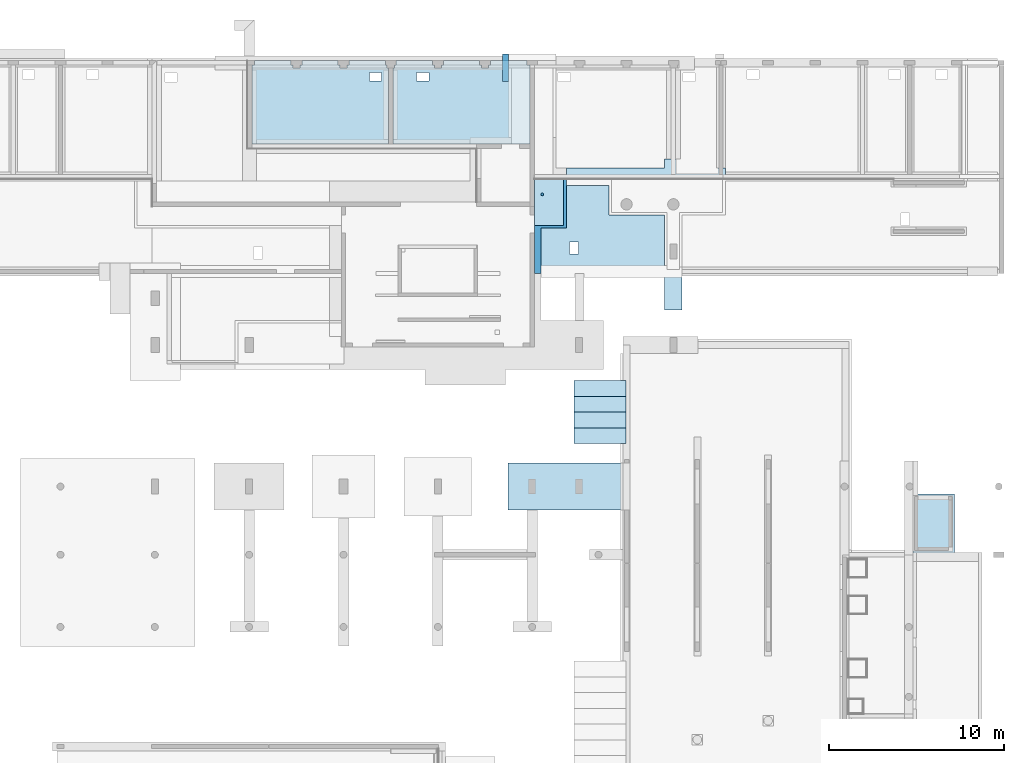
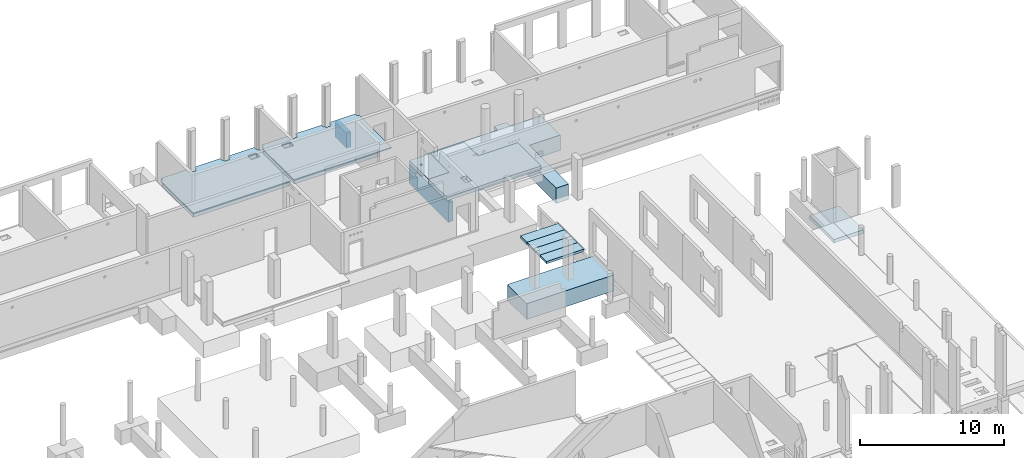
# One storey, part 32 of 60: 15 slabs, 45 openings.
"""IFC2X3 building model written with IfcOpenShell, lengths in millimetres."""

from ifc_helpers import new_model, entity, si_unit, converted_unit, derived_unit, direction, frame, frame_2d, origin, origin_2d_with_axis, place, context, subcontext, project, spatial, polyline, rectangle, circle, outline, extrude, boolean, material, layer, layer_set, layer_usage, element, save


model = new_model("IFC2X3")

# Units and contexts
model_context = context("Model", 3, precision=0.01, world=origin(), true_north=direction((6.12303176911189e-17, 1.0)))
body_context = subcontext(model_context, "Body", "Model", "MODEL_VIEW")
ifc_project = project(units=[si_unit("LENGTHUNIT", "METRE", prefix="MILLI"), si_unit("AREAUNIT", "SQUARE_METRE"), si_unit("VOLUMEUNIT", "CUBIC_METRE"), converted_unit("PLANEANGLEUNIT", "DEGREE", entity("IfcRatioMeasure", 0.0174532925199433), si_unit("PLANEANGLEUNIT", "RADIAN"), dimensions=[0, 0, 0, 0, 0, 0, 0]), si_unit("MASSUNIT", "GRAM", prefix="KILO"), derived_unit("MASSDENSITYUNIT", [(si_unit("MASSUNIT", "GRAM", prefix="KILO"), 1), (si_unit("LENGTHUNIT", "METRE"), -3)]), si_unit("TIMEUNIT", "SECOND"), si_unit("FREQUENCYUNIT", "HERTZ"), si_unit("THERMODYNAMICTEMPERATUREUNIT", "DEGREE_CELSIUS"), derived_unit("THERMALTRANSMITTANCEUNIT", [(si_unit("MASSUNIT", "GRAM", prefix="KILO"), 1), (si_unit("THERMODYNAMICTEMPERATUREUNIT", "KELVIN"), -1), (si_unit("TIMEUNIT", "SECOND"), -3)]), derived_unit("VOLUMETRICFLOWRATEUNIT", [(si_unit("LENGTHUNIT", "METRE"), 3), (si_unit("TIMEUNIT", "SECOND"), -1)]), si_unit("ELECTRICCURRENTUNIT", "AMPERE"), si_unit("ELECTRICVOLTAGEUNIT", "VOLT"), si_unit("POWERUNIT", "WATT"), si_unit("FORCEUNIT", "NEWTON", prefix="KILO"), si_unit("ILLUMINANCEUNIT", "LUX"), si_unit("LUMINOUSFLUXUNIT", "LUMEN"), si_unit("LUMINOUSINTENSITYUNIT", "CANDELA"), derived_unit("USERDEFINED", [(si_unit("MASSUNIT", "GRAM", prefix="KILO"), -1), (si_unit("LENGTHUNIT", "METRE"), -2), (si_unit("TIMEUNIT", "SECOND"), 3), (si_unit("LUMINOUSFLUXUNIT", "LUMEN"), 1)]), derived_unit("LINEARVELOCITYUNIT", [(si_unit("LENGTHUNIT", "METRE"), 1), (si_unit("TIMEUNIT", "SECOND"), -1)]), si_unit("PRESSUREUNIT", "PASCAL"), derived_unit("USERDEFINED", [(si_unit("LENGTHUNIT", "METRE"), -2), (si_unit("MASSUNIT", "GRAM", prefix="KILO"), 1), (si_unit("TIMEUNIT", "SECOND"), -2)])], contexts=[model_context])

# Site, building, storey
site_placement = place(None, origin())
site = spatial("IfcSite", under=ifc_project, at=site_placement, Name="Default", CompositionType="ELEMENT")
building_placement = place(site_placement, origin())
building = spatial("IfcBuilding", under=site, at=building_placement, Name="niet gebruiken", CompositionType="ELEMENT")
storey_placement = place(building_placement, origin())
storey = spatial("IfcBuildingStorey", under=building, at=storey_placement, Name="00 begane grond", CompositionType="ELEMENT", Elevation=0.0)

# Slab, openings
ifc_material_1 = material(Name="NLRS_f2_beton ihwg")
ifc_layer_1 = layer(ifc_material_1, 70.0)
ifc_layer_set_1 = layer_set([ifc_layer_1], Name="Floor:NLRS_23.21_FL_druklaag d=70_gen")
ifc_layer_usage_1 = layer_usage(ifc_layer_set_1, "AXIS3", "POSITIVE", 0.0)
slab_1_placement = place(storey_placement, frame((8180.0, 45156.0, -160.0)))
slab_1 = element("IfcSlab", 1, at=slab_1_placement, inside=storey, material=ifc_layer_usage_1, Name="Floor:NLRS_23.21_FL_druklaag d=70_gen:5", ObjectType="Floor:NLRS_23.21_FL_druklaag d=70_gen", PredefinedType="FLOOR", context=body_context, shape_type="SweptSolid", body=[
    extrude(outline(polyline([(-17722.5000000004, -730.0), (-17722.5000000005, 3800.0), (-17882.500000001, 3800.0), (-17882.500000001, 4050.0), (-19962.4999999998, 4050.0), (-19962.4999999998, 3800.0), (-20067.4999999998, 3800.0), (-20067.4999999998, 3640.0), (-20477.4999999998, 3640.0), (-20477.4999999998, 3800.0), (-20582.4999999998, 3800.0), (-20582.4999999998, 4050.0), (-22662.4999999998, 4050.0), (-22662.4999999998, 3800.0), (-22767.4999999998, 3800.0), (-22767.4999999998, 3640.0), (-23177.4999999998, 3640.0), (-23177.4999999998, 3800.0), (-23282.4999999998, 3800.0), (-23282.4999999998, 4050.0), (-25362.4999999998, 4050.0), (-25362.4999999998, 3800.0), (-25467.4999999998, 3800.0), (-25467.4999999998, 3640.0), (-25547.5000000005, 3640.0), (-25547.5000000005, -730.0), (-17722.5000000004, -730.0)])), frame((55247.4999999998, 4050.0, 70.0), z_axis=(0.0, 0.0, -1.0), x_axis=(-1.0, 0.0, 0.0)), (0.0, 0.0, 1.0), 70.0),
])
placement_1 = place(storey_placement, frame((8180.0, 45156.0, -160.0)))
placement_2 = place(placement_1, origin())
element("IfcOpeningElement", 2, at=placement_2, cuts=slab_1, ObjectType="Opening", context=body_context, shape_type="SweptSolid", body=[
    extrude(rectangle(XDim=700.000000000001, YDim=499.999999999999, at=origin_2d_with_axis()), frame((1750.0, 7302.50000000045, -380.0), z_axis=(0.0, 0.0, 1.0), x_axis=(-1.0, 0.0, 0.0)), (0.0, 0.0, 1.0), 450.0),
])
placement_3 = place(placement_1, origin())
element("IfcOpeningElement", 3, at=placement_3, cuts=slab_1, ObjectType="Opening", context=body_context, shape_type="SweptSolid", body=[
    extrude(rectangle(XDim=700.000000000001, YDim=499.999999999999, at=origin_2d_with_axis()), frame((4450.0, 7302.50000000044, -380.0), z_axis=(0.0, 0.0, 1.0), x_axis=(-1.0, 0.0, 0.0)), (0.0, 0.0, 1.0), 450.0),
])
placement_4 = place(placement_1, origin())
element("IfcOpeningElement", 4, at=placement_4, cuts=slab_1, ObjectType="Opening", context=body_context, shape_type="SweptSolid", body=[
    extrude(rectangle(XDim=700.000000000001, YDim=499.999999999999, at=origin_2d_with_axis()), frame((12550.0, 7302.50000000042, -380.0), z_axis=(0.0, 0.0, 1.0), x_axis=(-1.0, 0.0, 0.0)), (0.0, 0.0, 1.0), 450.0),
])
placement_5 = place(placement_1, origin())
element("IfcOpeningElement", 5, at=placement_5, cuts=slab_1, ObjectType="Opening", context=body_context, shape_type="SweptSolid", body=[
    extrude(rectangle(XDim=700.000000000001, YDim=499.999999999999, at=origin_2d_with_axis()), frame((15250.0, 7302.50000000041, -380.0), z_axis=(0.0, 0.0, 1.0), x_axis=(-1.0, 0.0, 0.0)), (0.0, 0.0, 1.0), 450.0),
])
placement_6 = place(placement_1, origin())
element("IfcOpeningElement", 6, at=placement_6, cuts=slab_1, ObjectType="Opening", context=body_context, shape_type="SweptSolid", body=[
    extrude(rectangle(XDim=700.000000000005, YDim=499.999999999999, at=origin_2d_with_axis()), frame((42250.0, 7175.0, -380.0), z_axis=(0.0, 0.0, 1.0), x_axis=(-1.0, 0.0, 0.0)), (0.0, 0.0, 1.0), 450.0),
])
placement_7 = place(placement_1, origin())
element("IfcOpeningElement", 7, at=placement_7, cuts=slab_1, ObjectType="Opening", context=body_context, shape_type="SweptSolid", body=[
    extrude(rectangle(XDim=700.000000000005, YDim=499.999999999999, at=origin_2d_with_axis()), frame((50350.0, 7102.50000000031, -380.0), z_axis=(0.0, 0.0, 1.0), x_axis=(-1.0, 0.0, 0.0)), (0.0, 0.0, 1.0), 450.0),
])
placement_8 = place(placement_1, origin())
element("IfcOpeningElement", 8, at=placement_8, cuts=slab_1, ObjectType="Opening", context=body_context, shape_type="SweptSolid", body=[
    extrude(rectangle(XDim=699.999999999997, YDim=499.999999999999, at=origin_2d_with_axis()), frame((53050.0, 7102.50000000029, -380.0), z_axis=(0.0, 0.0, 1.0), x_axis=(-1.0, 0.0, 0.0)), (0.0, 0.0, 1.0), 450.0),
])
placement_9 = place(placement_1, origin())
element("IfcOpeningElement", 9, at=placement_9, cuts=slab_1, ObjectType="Opening", context=body_context, shape_type="SweptSolid", body=[
    extrude(rectangle(XDim=699.999999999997, YDim=499.999999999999, at=origin_2d_with_axis()), frame((60190.0, 7302.50000000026, -380.0), z_axis=(0.0, 0.0, 1.0), x_axis=(-1.0, 0.0, 0.0)), (0.0, 0.0, 1.0), 450.0),
])
placement_10 = place(placement_1, origin())
element("IfcOpeningElement", 10, at=placement_10, cuts=slab_1, ObjectType="Opening", context=body_context, shape_type="SweptSolid", body=[
    extrude(rectangle(XDim=700.000000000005, YDim=499.999999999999, at=origin_2d_with_axis()), frame((63850.0, 7302.50000000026, -380.0), z_axis=(0.0, 0.0, 1.0), x_axis=(-1.0, 0.0, 0.0)), (0.0, 0.0, 1.0), 450.0),
])
placement_11 = place(placement_1, origin())
element("IfcOpeningElement", 11, at=placement_11, cuts=slab_1, ObjectType="Opening", context=body_context, shape_type="SweptSolid", body=[
    extrude(rectangle(XDim=699.999999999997, YDim=499.999999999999, at=origin_2d_with_axis()), frame((90850.0, 7155.0, -380.0), z_axis=(0.0, 0.0, 1.0), x_axis=(-1.0, 0.0, 0.0)), (0.0, 0.0, 1.0), 450.0),
])
placement_12 = place(placement_1, origin())
element("IfcOpeningElement", 12, at=placement_12, cuts=slab_1, ObjectType="Opening", context=body_context, shape_type="SweptSolid", body=[
    extrude(rectangle(XDim=699.999999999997, YDim=499.999999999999, at=origin_2d_with_axis()), frame((97990.0, 7155.0, -380.0), z_axis=(0.0, 0.0, 1.0), x_axis=(-1.0, 0.0, 0.0)), (0.0, 0.0, 1.0), 450.0),
])
placement_13 = place(placement_1, origin())
element("IfcOpeningElement", 13, at=placement_13, cuts=slab_1, ObjectType="Opening", context=body_context, shape_type="SweptSolid", body=[
    extrude(rectangle(XDim=699.999999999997, YDim=499.999999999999, at=origin_2d_with_axis()), frame((101650.0, 7302.50000000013, -380.0), z_axis=(0.0, 0.0, 1.0), x_axis=(-1.0, 0.0, 0.0)), (0.0, 0.0, 1.0), 450.0),
])
placement_14 = place(placement_1, origin())
element("IfcOpeningElement", 14, at=placement_14, cuts=slab_1, ObjectType="Opening", context=body_context, shape_type="SweptSolid", body=[
    extrude(rectangle(XDim=699.999999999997, YDim=499.999999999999, at=origin_2d_with_axis()), frame((109750.0, 7302.50000000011, -380.0), z_axis=(0.0, 0.0, 1.0), x_axis=(-1.0, 0.0, 0.0)), (0.0, 0.0, 1.0), 450.0),
])
placement_15 = place(placement_1, origin())
element("IfcOpeningElement", 15, at=placement_15, cuts=slab_1, ObjectType="Opening", context=body_context, shape_type="SweptSolid", body=[
    extrude(rectangle(XDim=699.999999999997, YDim=499.999999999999, at=origin_2d_with_axis()), frame((112450.0, 7302.5000000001, -380.0), z_axis=(0.0, 0.0, 1.0), x_axis=(-1.0, 0.0, 0.0)), (0.0, 0.0, 1.0), 450.0),
])
placement_16 = place(placement_1, origin())
element("IfcOpeningElement", 16, at=placement_16, cuts=slab_1, ObjectType="Opening", context=body_context, shape_type="SweptSolid", body=[
    extrude(rectangle(XDim=700.000000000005, YDim=499.999999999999, at=origin_2d_with_axis()), frame((31450.0, 7175.0, -380.0), z_axis=(0.0, 0.0, 1.0), x_axis=(-1.0, 0.0, 0.0)), (0.0, 0.0, 1.0), 450.0),
])
placement_17 = place(placement_1, origin())
element("IfcOpeningElement", 17, at=placement_17, cuts=slab_1, ObjectType="Opening", context=body_context, shape_type="SweptSolid", body=[
    extrude(rectangle(XDim=700.000000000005, YDim=499.999999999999, at=origin_2d_with_axis()), frame((34150.0, 7175.0, -380.0), z_axis=(0.0, 0.0, 1.0), x_axis=(-1.0, 0.0, 0.0)), (0.0, 0.0, 1.0), 450.0),
])
placement_18 = place(placement_1, origin())
element("IfcOpeningElement", 18, at=placement_18, cuts=slab_1, ObjectType="Opening", context=body_context, shape_type="SweptSolid", body=[
    extrude(rectangle(XDim=699.999999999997, YDim=499.999999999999, at=origin_2d_with_axis()), frame((82750.0, 7175.0, -380.0), z_axis=(0.0, 0.0, 1.0), x_axis=(-1.0, 0.0, 0.0)), (0.0, 0.0, 1.0), 450.0),
])
placement_19 = place(placement_1, origin())
element("IfcOpeningElement", 19, at=placement_19, cuts=slab_1, ObjectType="Opening", context=body_context, shape_type="SweptSolid", body=[
    extrude(rectangle(XDim=699.999999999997, YDim=499.999999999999, at=origin_2d_with_axis()), frame((80050.0, 7175.0, -380.0), z_axis=(0.0, 0.0, 1.0), x_axis=(-1.0, 0.0, 0.0)), (0.0, 0.0, 1.0), 450.0),
])
placement_20 = place(placement_1, origin())
element("IfcOpeningElement", 20, at=placement_20, cuts=slab_1, ObjectType="Opening", context=body_context, shape_type="SweptSolid", body=[
    extrude(rectangle(XDim=700.000000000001, YDim=499.999999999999, at=origin_2d_with_axis()), frame((19739.8230847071, 7129.78918001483, -380.0), z_axis=(0.0, 0.0, 1.0), x_axis=(-1.0, 0.0, 0.0)), (0.0, 0.0, 1.0), 450.0),
])

slab_2_placement = place(storey_placement, frame((8180.0, 45156.0, -160.0)))
slab_2 = element("IfcSlab", 21, at=slab_2_placement, inside=storey, material=ifc_layer_usage_1, Name="Floor:NLRS_23.21_FL_druklaag d=70_gen:12", ObjectType="Floor:NLRS_23.21_FL_druklaag d=70_gen", PredefinedType="FLOOR", context=body_context, shape_type="SweptSolid", body=[
    extrude(outline(polyline([(-25877.4999999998, 3800.0), (-25982.4999999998, 3800.0), (-25982.4999999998, 4050.0), (-28062.5000000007, 4050.0), (-28062.5000000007, 3800.0), (-28167.5000000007, 3800.0), (-28167.5000000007, 3640.0), (-28577.5000000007, 3640.0), (-28577.5000000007, 3800.0), (-28682.5000000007, 3800.0), (-28682.5000000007, 4050.0), (-30762.5000000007, 4050.0), (-30762.5000000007, 3800.0), (-30867.5000000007, 3800.0), (-30867.5000000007, 3640.0), (-31277.5000000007, 3640.0), (-31277.5000000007, 3800.0), (-31382.5000000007, 3800.0), (-31382.5000000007, 4050.0), (-33462.5000000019, 4050.0), (-33462.5000000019, 3800.0), (-33647.4999999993, 3800.0), (-33647.4999999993, -730.0), (-25797.5000000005, -730.0), (-25797.5000000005, 3640.0), (-25877.4999999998, 3640.0), (-25877.4999999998, 3800.0)])), frame((55247.4999999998, 4050.0, 70.0), z_axis=(0.0, 0.0, -1.0), x_axis=(-1.0, 0.0, 0.0)), (0.0, 0.0, 1.0), 70.0),
])
element("IfcOpeningElement", 22, at=placement_2, cuts=slab_2, ObjectType="Opening", context=body_context, shape_type="SweptSolid", body=[
    extrude(rectangle(XDim=700.000000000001, YDim=499.999999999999, at=origin_2d_with_axis()), frame((1750.0, 7302.50000000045, -380.0), z_axis=(0.0, 0.0, 1.0), x_axis=(-1.0, 0.0, 0.0)), (0.0, 0.0, 1.0), 450.0),
])
element("IfcOpeningElement", 23, at=placement_3, cuts=slab_2, ObjectType="Opening", context=body_context, shape_type="SweptSolid", body=[
    extrude(rectangle(XDim=700.000000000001, YDim=499.999999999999, at=origin_2d_with_axis()), frame((4450.0, 7302.50000000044, -380.0), z_axis=(0.0, 0.0, 1.0), x_axis=(-1.0, 0.0, 0.0)), (0.0, 0.0, 1.0), 450.0),
])
element("IfcOpeningElement", 24, at=placement_4, cuts=slab_2, ObjectType="Opening", context=body_context, shape_type="SweptSolid", body=[
    extrude(rectangle(XDim=700.000000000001, YDim=499.999999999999, at=origin_2d_with_axis()), frame((12550.0, 7302.50000000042, -380.0), z_axis=(0.0, 0.0, 1.0), x_axis=(-1.0, 0.0, 0.0)), (0.0, 0.0, 1.0), 450.0),
])
element("IfcOpeningElement", 25, at=placement_5, cuts=slab_2, ObjectType="Opening", context=body_context, shape_type="SweptSolid", body=[
    extrude(rectangle(XDim=700.000000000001, YDim=499.999999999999, at=origin_2d_with_axis()), frame((15250.0, 7302.50000000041, -380.0), z_axis=(0.0, 0.0, 1.0), x_axis=(-1.0, 0.0, 0.0)), (0.0, 0.0, 1.0), 450.0),
])
element("IfcOpeningElement", 26, at=placement_6, cuts=slab_2, ObjectType="Opening", context=body_context, shape_type="SweptSolid", body=[
    extrude(rectangle(XDim=700.000000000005, YDim=499.999999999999, at=origin_2d_with_axis()), frame((42250.0, 7175.0, -380.0), z_axis=(0.0, 0.0, 1.0), x_axis=(-1.0, 0.0, 0.0)), (0.0, 0.0, 1.0), 450.0),
])
element("IfcOpeningElement", 27, at=placement_7, cuts=slab_2, ObjectType="Opening", context=body_context, shape_type="SweptSolid", body=[
    extrude(rectangle(XDim=700.000000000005, YDim=499.999999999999, at=origin_2d_with_axis()), frame((50350.0, 7102.50000000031, -380.0), z_axis=(0.0, 0.0, 1.0), x_axis=(-1.0, 0.0, 0.0)), (0.0, 0.0, 1.0), 450.0),
])
element("IfcOpeningElement", 28, at=placement_8, cuts=slab_2, ObjectType="Opening", context=body_context, shape_type="SweptSolid", body=[
    extrude(rectangle(XDim=699.999999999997, YDim=499.999999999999, at=origin_2d_with_axis()), frame((53050.0, 7102.50000000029, -380.0), z_axis=(0.0, 0.0, 1.0), x_axis=(-1.0, 0.0, 0.0)), (0.0, 0.0, 1.0), 450.0),
])
element("IfcOpeningElement", 29, at=placement_9, cuts=slab_2, ObjectType="Opening", context=body_context, shape_type="SweptSolid", body=[
    extrude(rectangle(XDim=699.999999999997, YDim=499.999999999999, at=origin_2d_with_axis()), frame((60190.0, 7302.50000000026, -380.0), z_axis=(0.0, 0.0, 1.0), x_axis=(-1.0, 0.0, 0.0)), (0.0, 0.0, 1.0), 450.0),
])
element("IfcOpeningElement", 30, at=placement_10, cuts=slab_2, ObjectType="Opening", context=body_context, shape_type="SweptSolid", body=[
    extrude(rectangle(XDim=700.000000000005, YDim=499.999999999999, at=origin_2d_with_axis()), frame((63850.0, 7302.50000000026, -380.0), z_axis=(0.0, 0.0, 1.0), x_axis=(-1.0, 0.0, 0.0)), (0.0, 0.0, 1.0), 450.0),
])
element("IfcOpeningElement", 31, at=placement_11, cuts=slab_2, ObjectType="Opening", context=body_context, shape_type="SweptSolid", body=[
    extrude(rectangle(XDim=699.999999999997, YDim=499.999999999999, at=origin_2d_with_axis()), frame((90850.0, 7155.0, -380.0), z_axis=(0.0, 0.0, 1.0), x_axis=(-1.0, 0.0, 0.0)), (0.0, 0.0, 1.0), 450.0),
])
element("IfcOpeningElement", 32, at=placement_12, cuts=slab_2, ObjectType="Opening", context=body_context, shape_type="SweptSolid", body=[
    extrude(rectangle(XDim=699.999999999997, YDim=499.999999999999, at=origin_2d_with_axis()), frame((97990.0, 7155.0, -380.0), z_axis=(0.0, 0.0, 1.0), x_axis=(-1.0, 0.0, 0.0)), (0.0, 0.0, 1.0), 450.0),
])
element("IfcOpeningElement", 33, at=placement_13, cuts=slab_2, ObjectType="Opening", context=body_context, shape_type="SweptSolid", body=[
    extrude(rectangle(XDim=699.999999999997, YDim=499.999999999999, at=origin_2d_with_axis()), frame((101650.0, 7302.50000000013, -380.0), z_axis=(0.0, 0.0, 1.0), x_axis=(-1.0, 0.0, 0.0)), (0.0, 0.0, 1.0), 450.0),
])
element("IfcOpeningElement", 34, at=placement_14, cuts=slab_2, ObjectType="Opening", context=body_context, shape_type="SweptSolid", body=[
    extrude(rectangle(XDim=699.999999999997, YDim=499.999999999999, at=origin_2d_with_axis()), frame((109750.0, 7302.50000000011, -380.0), z_axis=(0.0, 0.0, 1.0), x_axis=(-1.0, 0.0, 0.0)), (0.0, 0.0, 1.0), 450.0),
])
element("IfcOpeningElement", 35, at=placement_15, cuts=slab_2, ObjectType="Opening", context=body_context, shape_type="SweptSolid", body=[
    extrude(rectangle(XDim=699.999999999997, YDim=499.999999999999, at=origin_2d_with_axis()), frame((112450.0, 7302.5000000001, -380.0), z_axis=(0.0, 0.0, 1.0), x_axis=(-1.0, 0.0, 0.0)), (0.0, 0.0, 1.0), 450.0),
])
element("IfcOpeningElement", 36, at=placement_16, cuts=slab_2, ObjectType="Opening", context=body_context, shape_type="SweptSolid", body=[
    extrude(rectangle(XDim=700.000000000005, YDim=499.999999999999, at=origin_2d_with_axis()), frame((31450.0, 7175.0, -380.0), z_axis=(0.0, 0.0, 1.0), x_axis=(-1.0, 0.0, 0.0)), (0.0, 0.0, 1.0), 450.0),
])
element("IfcOpeningElement", 37, at=placement_17, cuts=slab_2, ObjectType="Opening", context=body_context, shape_type="SweptSolid", body=[
    extrude(rectangle(XDim=700.000000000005, YDim=499.999999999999, at=origin_2d_with_axis()), frame((34150.0, 7175.0, -380.0), z_axis=(0.0, 0.0, 1.0), x_axis=(-1.0, 0.0, 0.0)), (0.0, 0.0, 1.0), 450.0),
])
element("IfcOpeningElement", 38, at=placement_18, cuts=slab_2, ObjectType="Opening", context=body_context, shape_type="SweptSolid", body=[
    extrude(rectangle(XDim=699.999999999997, YDim=499.999999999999, at=origin_2d_with_axis()), frame((82750.0, 7175.0, -380.0), z_axis=(0.0, 0.0, 1.0), x_axis=(-1.0, 0.0, 0.0)), (0.0, 0.0, 1.0), 450.0),
])
element("IfcOpeningElement", 39, at=placement_19, cuts=slab_2, ObjectType="Opening", context=body_context, shape_type="SweptSolid", body=[
    extrude(rectangle(XDim=699.999999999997, YDim=499.999999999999, at=origin_2d_with_axis()), frame((80050.0, 7175.0, -380.0), z_axis=(0.0, 0.0, 1.0), x_axis=(-1.0, 0.0, 0.0)), (0.0, 0.0, 1.0), 450.0),
])
element("IfcOpeningElement", 40, at=placement_20, cuts=slab_2, ObjectType="Opening", context=body_context, shape_type="SweptSolid", body=[
    extrude(rectangle(XDim=700.000000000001, YDim=499.999999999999, at=origin_2d_with_axis()), frame((19739.8230847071, 7129.78918001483, -380.0), z_axis=(0.0, 0.0, 1.0), x_axis=(-1.0, 0.0, 0.0)), (0.0, 0.0, 1.0), 450.0),
])

ifc_material_2 = material(Name="NLRS_f2_beton prefab")
ifc_layer_2 = layer(ifc_material_2, 200.0)
ifc_material_3 = material(Name="NLRS_n7_isolatie EPS")
ifc_layer_3 = layer(ifc_material_3, 132.0)
ifc_layer_set_2 = layer_set([ifc_layer_2, ifc_layer_3], Name="Floor:NLRS_23.21_FL_geisoleerde kanaalplaat d=200 rc 3.5 iso132_gen")
ifc_layer_usage_2 = layer_usage(ifc_layer_set_2, "AXIS3", "POSITIVE", 0.0)
slab_3_placement = place(storey_placement, frame((97345.0, 41331.0, -402.0)))
slab_3 = element("IfcSlab", 41, at=slab_3_placement, inside=storey, material=ifc_layer_usage_2, Name="Floor:NLRS_23.21_FL_geisoleerde kanaalplaat d=200 rc 3.5 iso132_gen", ObjectType="Floor:NLRS_23.21_FL_geisoleerde kanaalplaat d=200 rc 3.5 iso132_gen", PredefinedType="FLOOR", context=body_context, shape_type="SweptSolid", body=[
    extrude(outline(polyline([(8887.50000000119, 2572.50000000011), (8887.50000000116, 667.500000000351), (5712.50000000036, 667.500000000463), (5712.50000000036, -2572.50000000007), (13292.5, -2572.50000000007), (13292.5, -72.499999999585), (11637.5000000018, -72.4999999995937), (11637.5000000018, 2572.50000000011), (8887.50000000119, 2572.50000000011)])), frame((13292.5, 2572.50000000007, 332.0), z_axis=(0.0, 0.0, -1.0), x_axis=(-1.0, 0.0, 0.0)), (0.0, 0.0, 1.0), 332.0),
])
opening_39_placement = place(slab_3_placement, origin())
element("IfcOpeningElement", 42, at=opening_39_placement, cuts=slab_3, ObjectType="Opening", context=body_context, shape_type="SweptSolid", body=[
    extrude(rectangle(XDim=700.000000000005, YDim=500.000000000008, at=origin_2d_with_axis()), frame((2250.0, 1200.0, -48.0), z_axis=(0.0, 0.0, 1.0), x_axis=(0.0, -1.0, 0.0)), (0.0, 0.0, 1.0), 450.0),
])
opening_40_placement = place(slab_3_placement, origin())
element("IfcOpeningElement", 43, at=opening_40_placement, cuts=slab_3, ObjectType="Opening", context=body_context, shape_type="SweptSolid", body=[
    extrude(rectangle(XDim=700.000000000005, YDim=500.000000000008, at=origin_2d_with_axis()), frame((21200.0, 2850.0, -48.0), z_axis=(0.0, 0.0, 1.0), x_axis=(0.0, -1.0, 0.0)), (0.0, 0.0, 1.0), 450.0),
])

# Slab, opening
ifc_layer_usage_3 = layer_usage(ifc_layer_set_2, "AXIS3", "POSITIVE", 0.0)
slab_4_placement = place(storey_placement, frame((81170.0, 48496.0, -492.0)))
slab_4 = element("IfcSlab", 44, at=slab_4_placement, inside=storey, material=ifc_layer_usage_3, Name="Floor:NLRS_23.21_FL_geisoleerde kanaalplaat d=200 rc 3.5 iso132_gen", ObjectType="Floor:NLRS_23.21_FL_geisoleerde kanaalplaat d=200 rc 3.5 iso132_gen", PredefinedType="FLOOR", context=body_context, shape_type="SweptSolid", body=[
    extrude(rectangle(XDim=4329.99999999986, YDim=7785.00000000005, at=frame_2d((0.0, 0.0), x_axis=(0.0, -1.0))), frame((3892.50000000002, 2165.0, 332.0), z_axis=(0.0, 0.0, -1.0), x_axis=(-1.0, 0.0, 0.0)), (0.0, 0.0, 1.0), 332.0),
])
opening_41_placement = place(slab_4_placement, origin())
element("IfcOpeningElement", 45, at=opening_41_placement, cuts=slab_4, ObjectType="Opening", context=body_context, shape_type="SweptSolid", body=[
    extrude(rectangle(XDim=699.999999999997, YDim=499.999999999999, at=origin_2d_with_axis()), frame((7060.0, 3835.0, -48.0), z_axis=(0.0, 0.0, 1.0), x_axis=(-1.0, 0.0, 0.0)), (0.0, 0.0, 1.0), 450.0),
])

ifc_layer_usage_4 = layer_usage(ifc_layer_set_2, "AXIS3", "POSITIVE", 0.0)
slab_5_placement = place(storey_placement, frame((89245.0, 48496.0, -492.0)))
slab_5 = element("IfcSlab", 46, at=slab_5_placement, inside=storey, material=ifc_layer_usage_4, Name="Floor:NLRS_23.21_FL_geisoleerde kanaalplaat d=200 rc 3.5 iso132_gen", ObjectType="Floor:NLRS_23.21_FL_geisoleerde kanaalplaat d=200 rc 3.5 iso132_gen", PredefinedType="FLOOR", context=body_context, shape_type="SweptSolid", body=[
    extrude(rectangle(XDim=4329.99999999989, YDim=6754.99999999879, at=frame_2d((0.0, 0.0), x_axis=(0.0, -1.0))), frame((3377.4999999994, 2165.0, 332.0), z_axis=(0.0, 0.0, -1.0), x_axis=(-1.0, 0.0, 0.0)), (0.0, 0.0, 1.0), 332.0),
])
opening_42_placement = place(slab_5_placement, origin())
element("IfcOpeningElement", 47, at=opening_42_placement, cuts=slab_5, ObjectType="Opening", context=body_context, shape_type="SweptSolid", body=[
    extrude(rectangle(XDim=699.999999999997, YDim=499.999999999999, at=origin_2d_with_axis()), frame((1685.0, 3835.0, -48.0), z_axis=(0.0, 0.0, 1.0), x_axis=(-1.0, 0.0, 0.0)), (0.0, 0.0, 1.0), 450.0),
])

# Slabs
slab_6_placement = place(storey_placement, origin())
element("IfcSlab", 48, at=slab_6_placement, inside=storey, material=ifc_material_1, Name="NLRS_16.13_SFO_LB_fundatiepoer_gen:7050x2700x1350", ObjectType="NLRS_16.13_SFO_LB_fundatiepoer_gen:7050x2700x1350", PredefinedType="BASESLAB", context=body_context, shape_type="SweptSolid", body=[
    extrude(outline(polyline([(-868.461538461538, -4954.61538461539), (481.538461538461, -4954.61538461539), (481.538461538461, -3854.61538461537), (481.538461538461, -3254.61538461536), (481.538461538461, 1645.38461538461), (481.538461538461, 2045.38461538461), (301.538461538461, 2045.38461538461), (301.538461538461, 2025.38461538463), (231.538461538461, 2025.38461538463), (231.538461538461, 2045.38461538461), (-868.461538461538, 2045.38461538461), (-868.461538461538, 1645.38461538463), (-868.461538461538, 1495.38461538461), (-868.461538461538, -4954.61538461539)])), frame((100754.615384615, 27531.0, -681.538461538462), z_axis=(0.0, 1.0, 0.0), x_axis=(0.0, 0.0, 1.0)), (0.0, 0.0, 1.0), 2700.0),
])
ifc_layer_4 = layer(ifc_material_1, 300.0)
ifc_layer_set_3 = layer_set([ifc_layer_4], Name="Floor:NLRS_13.22_FL_beton ihwg d=300_gen")
ifc_layer_usage_5 = layer_usage(ifc_layer_set_3, "AXIS3", "POSITIVE", 0.0)
slab_7_placement = place(storey_placement, origin())
element("IfcSlab", 49, at=slab_7_placement, inside=storey, material=ifc_layer_usage_5, Name="Floor:NLRS_13.22_FL_beton ihwg d=300_gen", ObjectType="Floor:NLRS_13.22_FL_beton ihwg d=300_gen", PredefinedType="BASESLAB", context=body_context, shape_type="SweptSolid", body=[
    extrude(rectangle(XDim=3380.0, YDim=2375.00000000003, at=frame_2d((2.1600499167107e-12, 0.0), x_axis=(1.0, 0.0))), frame((120187.5, 26766.0, -1400.0), z_axis=(0.0, 0.0, -1.0), x_axis=(0.0, 1.0, 0.0)), (0.0, 0.0, 1.0), 300.0),
])
ifc_layer_5 = layer(ifc_material_2, 200.0)
ifc_layer_set_4 = layer_set([ifc_layer_5], Name="Floor:NLRS_13.22_FL_beton prefab d=200_gen")
ifc_layer_usage_6 = layer_usage(ifc_layer_set_4, "AXIS3", "POSITIVE", 0.0)
slab_8_placement = place(storey_placement, origin())
element("IfcSlab", 50, at=slab_8_placement, inside=storey, material=ifc_layer_usage_6, Name="Floor:NLRS_13.22_FL_beton prefab d=200_gen", ObjectType="Floor:NLRS_13.22_FL_beton prefab d=200_gen", PredefinedType="FLOOR", context=body_context, shape_type="SweptSolid", body=[
    extrude(rectangle(XDim=900.000000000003, YDim=3000.00000000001, at=frame_2d((-2.1600499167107e-12, 0.0), x_axis=(1.0, 0.0))), frame((101080.0, 31785.8078695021, -250.0), z_axis=(0.0, 0.0, -1.0), x_axis=(0.0, 1.0, 0.0)), (0.0, 0.0, 1.0), 200.0),
])
ifc_layer_usage_7 = layer_usage(ifc_layer_set_4, "AXIS3", "POSITIVE", 0.0)
slab_9_placement = place(storey_placement, origin())
element("IfcSlab", 51, at=slab_9_placement, inside=storey, material=ifc_layer_usage_7, Name="Floor:NLRS_13.22_FL_beton prefab d=200_gen", ObjectType="Floor:NLRS_13.22_FL_beton prefab d=200_gen", PredefinedType="FLOOR", context=body_context, shape_type="SweptSolid", body=[
    extrude(rectangle(XDim=900.000000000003, YDim=2999.99999999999, at=frame_2d((-2.1600499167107e-12, 8.64019966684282e-12), x_axis=(1.0, 0.0))), frame((101080.0, 32685.8078695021, -250.0), z_axis=(0.0, 0.0, -1.0), x_axis=(0.0, 1.0, 0.0)), (0.0, 0.0, 1.0), 200.0),
])
ifc_layer_usage_8 = layer_usage(ifc_layer_set_4, "AXIS3", "POSITIVE", 0.0)
slab_10_placement = place(storey_placement, origin())
element("IfcSlab", 52, at=slab_10_placement, inside=storey, material=ifc_layer_usage_8, Name="Floor:NLRS_13.22_FL_beton prefab d=200_gen", ObjectType="Floor:NLRS_13.22_FL_beton prefab d=200_gen", PredefinedType="FLOOR", context=body_context, shape_type="SweptSolid", body=[
    extrude(rectangle(XDim=900.000000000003, YDim=2999.99999999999, at=frame_2d((-2.1600499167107e-12, 8.64019966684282e-12), x_axis=(1.0, 0.0))), frame((101080.0, 33585.8078695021, -250.0), z_axis=(0.0, 0.0, -1.0), x_axis=(0.0, 1.0, 0.0)), (0.0, 0.0, 1.0), 200.0),
])
ifc_layer_usage_9 = layer_usage(ifc_layer_set_4, "AXIS3", "POSITIVE", 0.0)
slab_11_placement = place(storey_placement, origin())
element("IfcSlab", 53, at=slab_11_placement, inside=storey, material=ifc_layer_usage_9, Name="Floor:NLRS_13.22_FL_beton prefab d=200_gen", ObjectType="Floor:NLRS_13.22_FL_beton prefab d=200_gen", PredefinedType="FLOOR", context=body_context, shape_type="SweptSolid", body=[
    extrude(rectangle(XDim=900.000000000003, YDim=2999.99999999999, at=frame_2d((-2.1600499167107e-12, 8.64019966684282e-12), x_axis=(1.0, 0.0))), frame((101080.0, 34485.8078695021, -250.0), z_axis=(0.0, 0.0, -1.0), x_axis=(0.0, 1.0, 0.0)), (0.0, 0.0, 1.0), 200.0),
])

# Slab, openings
ifc_layer_6 = layer(ifc_material_1, 1648.0)
ifc_layer_set_5 = layer_set([ifc_layer_6], Name="Floor:NLRS_13.22_FL_beton ihwg d=1648")
ifc_layer_usage_10 = layer_usage(ifc_layer_set_5, "AXIS3", "POSITIVE", 0.0)
slab_12_placement = place(storey_placement, frame((97325.0, 41061.0, -2050.0)))
slab_12 = element("IfcSlab", 54, at=slab_12_placement, inside=storey, material=ifc_layer_usage_10, Name="Floor:NLRS_13.22_FL_beton ihwg d=1648", ObjectType="Floor:NLRS_13.22_FL_beton ihwg d=1648", PredefinedType="BASESLAB", context=body_context, shape_type="SweptSolid", body=[
    extrude(outline(polyline([(537.499999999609, -2717.49999999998), (912.499999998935, -2717.49999999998), (912.499999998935, 2717.49999999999), (-912.499999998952, 2717.49999999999), (-912.499999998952, -97.4999999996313), (537.499999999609, -97.4999999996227), (537.499999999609, -2717.49999999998)])), frame((912.499999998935, 2717.49999999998, 1648.0), z_axis=(0.0, 0.0, -1.0), x_axis=(-1.0, 0.0, 0.0)), (0.0, 0.0, 1.0), 1648.0),
])
opening_43_placement = place(slab_12_placement, origin())
element("IfcOpeningElement", 55, at=opening_43_placement, cuts=slab_12, ObjectType="Opening", context=body_context, shape_type="SweptSolid", body=[
    extrude(circle(Radius=80.0, at=origin_2d_with_axis()), frame((368.0, 4540.57249999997, 1360.0), z_axis=(1.0, 0.0, 0.0), x_axis=(0.0, 1.0, 0.0)), (0.0, 0.0, 1.0), 1457.0),
])
opening_44_placement = place(slab_12_placement, origin())
element("IfcOpeningElement", 56, at=opening_44_placement, cuts=slab_12, ObjectType="Opening", context=body_context, shape_type="SweptSolid", body=[
    extrude(circle(Radius=80.0, at=origin_2d_with_axis()), frame((448.066666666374, 4540.57249999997, 1280.0), z_axis=(0.0, 0.0, 1.0), x_axis=(0.0, 1.0, 0.0)), (0.0, 0.0, 1.0), 770.0),
])

# Slab, opening
ifc_layer_7 = layer(ifc_material_1, 332.0)
ifc_layer_set_6 = layer_set([ifc_layer_7], Name="Floor:NLRS_13.22_FL_beton ihwg d=332_gen")
ifc_layer_usage_11 = layer_usage(ifc_layer_set_6, "AXIS3", "POSITIVE", 0.0)
slab_13_placement = place(storey_placement, frame((97325.0, 43831.0, -402.0)))
slab_13 = element("IfcSlab", 57, at=slab_13_placement, inside=storey, material=ifc_layer_usage_11, Name="Floor:NLRS_13.22_FL_beton ihwg d=332_gen", ObjectType="Floor:NLRS_13.22_FL_beton ihwg d=332_gen", PredefinedType="FLOOR", context=body_context, shape_type="SweptSolid", body=[
    extrude(rectangle(XDim=2644.99999999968, YDim=1674.99999999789, at=frame_2d((0.0, 0.0), x_axis=(0.0, 1.0))), frame((837.499999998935, 1322.49999999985, 332.0), z_axis=(0.0, 0.0, -1.0), x_axis=(-1.0, 0.0, 0.0)), (0.0, 0.0, 1.0), 332.0),
])
opening_45_placement = place(slab_13_placement, origin())
element("IfcOpeningElement", 58, at=opening_45_placement, cuts=slab_13, ObjectType="Opening", context=body_context, shape_type="SweptSolid", body=[
    extrude(circle(Radius=80.0, at=origin_2d_with_axis()), frame((448.066666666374, 1770.57249999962, -368.0), z_axis=(0.0, 0.0, 1.0), x_axis=(0.0, 1.0, 0.0)), (0.0, 0.0, 1.0), 770.0),
])

# Slabs
ifc_layer_8 = layer(ifc_material_1, 1300.0)
ifc_layer_set_7 = layer_set([ifc_layer_8], Name="Floor:NLRS_23.21_FL_beton ihwg d=1300_gen")
ifc_layer_usage_12 = layer_usage(ifc_layer_set_7, "AXIS3", "POSITIVE", 0.0)
slab_14_placement = place(storey_placement, origin())
element("IfcSlab", 59, at=slab_14_placement, inside=storey, material=ifc_layer_usage_12, Name="Floor:NLRS_23.21_FL_beton ihwg d=1300_gen", ObjectType="Floor:NLRS_23.21_FL_beton ihwg d=1300_gen", PredefinedType="FLOOR", context=body_context, shape_type="SweptSolid", body=[
    extrude(rectangle(XDim=1574.99999999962, YDim=350.000000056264, at=origin_2d_with_axis()), frame((95675.0, 52843.5, -492.0), z_axis=(0.0, 0.0, -1.0), x_axis=(0.0, 1.0, 0.0)), (0.0, 0.0, 1.0), 1300.0),
])
ifc_layer_9 = layer(ifc_material_1, 1300.0)
ifc_layer_set_8 = layer_set([ifc_layer_9], Name="Floor:NLRS_13.22_FL_beton ihwg d=1300")
ifc_layer_usage_13 = layer_usage(ifc_layer_set_8, "AXIS3", "POSITIVE", 0.0)
slab_15_placement = place(storey_placement, origin())
element("IfcSlab", 60, at=slab_15_placement, inside=storey, material=ifc_layer_usage_13, Name="Floor:NLRS_13.22_FL_beton ihwg d=1300", ObjectType="Floor:NLRS_13.22_FL_beton ihwg d=1300", PredefinedType="BASESLAB", context=body_context, shape_type="CSG", body=[
    boolean("DIFFERENCE", boolean("DIFFERENCE", boolean("DIFFERENCE", boolean("DIFFERENCE", extrude(outline(polyline([(1003.57142857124, -5150.0), (2003.57142857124, -5150.0), (2003.57142857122, 475.0), (2513.57142857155, 475.0), (2513.57142857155, 1475.0), (2003.57142857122, 1475.0), (2003.57142857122, 3950.0), (-696.428571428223, 3950.0), (-696.428571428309, 1475.0), (-6131.42857142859, 1475.0), (-6131.42857142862, 475.0), (-696.428571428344, 475.0), (-696.428571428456, -2700.0), (1003.57142857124, -2700.0), (1003.57142857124, -5150.0)])), frame((104300.0, 45117.4285714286, -492.0), z_axis=(0.0, 0.0, -1.0), x_axis=(0.0, 1.0, 0.0)), (0.0, 0.0, 1.0), 1300.0), extrude(circle(Radius=99.9999999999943, at=frame_2d((-5.24372607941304e-25, 7.30935312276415e-12), x_axis=(1.0, 0.0))), frame((101360.123677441, 47121.0, -715.0), z_axis=(0.0, -1.0, 0.0), x_axis=(-1.0, 0.0, 0.0)), (0.0, 0.0, 1.0), 999.999999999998)), extrude(circle(Radius=99.9999999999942, at=frame_2d((-5.73841721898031e-25, 7.85078668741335e-12), x_axis=(1.0, 0.0))), frame((101080.123120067, 46121.0, -715.0), z_axis=(0.0, 1.0, 0.0), x_axis=(-1.0, 0.0, 0.0)), (0.0, 0.0, 1.0), 999.999999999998)), extrude(circle(Radius=99.9999999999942, at=frame_2d((-5.73841721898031e-25, 7.85078668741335e-12), x_axis=(1.0, 0.0))), frame((100800.122993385, 46121.0, -715.0), z_axis=(0.0, 1.0, 0.0), x_axis=(-1.0, 0.0, 0.0)), (0.0, 0.0, 1.0), 999.999999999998)), extrude(circle(Radius=62.499999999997, at=frame_2d((-2.13413421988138e-25, 3.79003495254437e-12), x_axis=(1.0, 0.0))), frame((103849.986318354, 44421.0, -730.0), z_axis=(0.0, 1.0, 0.0), x_axis=(-1.0, 0.0, 0.0)), (0.0, 0.0, 1.0), 2699.9999999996)),
])

save(model, "model.ifc")
